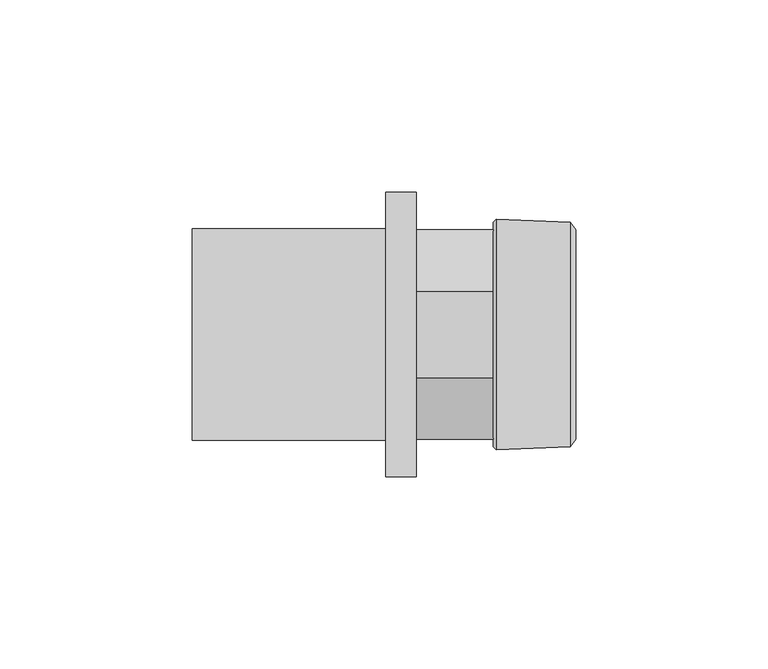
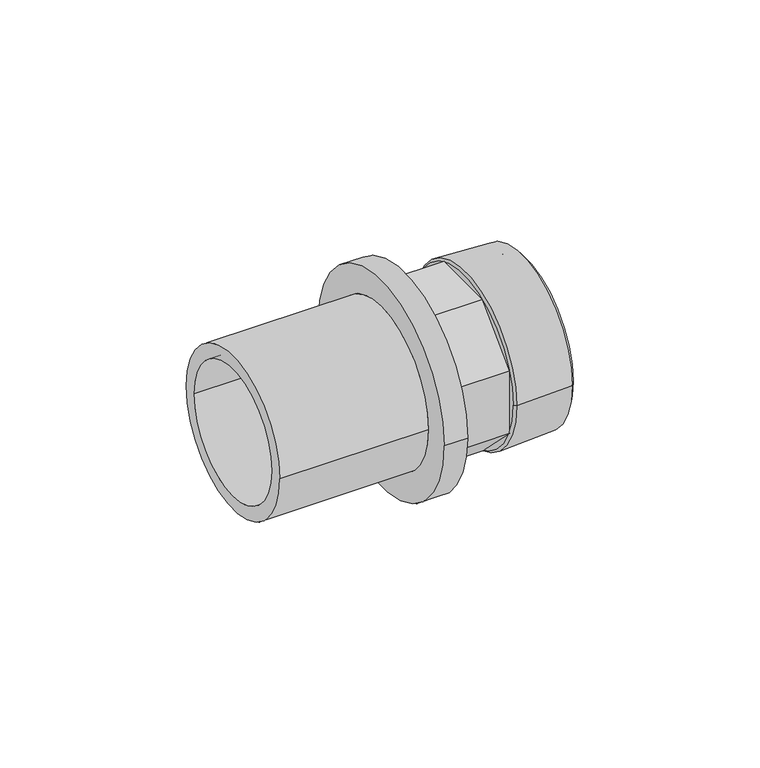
"""IFC4 building model written with IfcOpenShell, lengths in millimetres: pipe fitting geometry, REHAU_RAUTITAN_Adaptor_RX+ stabil, with external thread : REHAU_RAUTITAN_Adaptor_RX+ stabil, with external thread."""

from ifc_helpers import new_model, si_unit, point, frame, origin, origin_2d, place, context, project, spatial, polyline, circle_curve, trimmed, segment, composite_curve, outline, extrude, source, transform, mapped, element, save
from ifc_brep_helpers import plane_surface, cylinder_surface, revolved_surface, advanced_brep


def pipe_fitting_51f131a0(model_context):
    return source(origin(), model_context, "Body", "SolidModel", [
        advanced_brep(
        [(21.1032803, 24.75, 0.0), (21.1032803, -24.75, 0.0), (41.5, -24.75, 0.0), (41.5, 24.75, 0.0), (20.0, 23.6467197, 0.0), (20.0, -23.6467197, 0.0), (20.7406902, 29.95, 0.0), (20.7406902, -29.95, 0.0), (20.0, -29.2, 0.0), (20.0, 29.2, 0.0), (40.0000007, 29.2, 0.0), (40.0000007, -29.2, 0.0), (41.5, 27.25, 0.0), (41.5, -27.25, 0.0)],
        [
            (0, 1, circle_curve(frame((21.1032803, 0.0, 0.0), z_axis=(-1.0, 0.0, 0.0), x_axis=(0.0, -1.0, 0.0)), 24.75)),
            (1, 2),
            (2, 3, circle_curve(frame((41.5, 0.0, 0.0), z_axis=(1.0, 0.0, 0.0), x_axis=(0.0, -1.0, 0.0)), 24.75)),
            (3, 0),
            (4, 5, circle_curve(frame((20.0, 0.0, 0.0), z_axis=(-1.0, 0.0, 0.0), x_axis=(0.0, -1.0, 0.0)), 23.6467197)),
            (5, 1),
            (0, 4),
            (6, 7, circle_curve(frame((20.7406902, 0.0, 0.0), z_axis=(-1.0, 0.0, 0.0), x_axis=(0.0, -1.0, 0.0)), 29.95)),
            (7, 8),
            (8, 9, circle_curve(frame((20.0, 0.0, 0.0), z_axis=(1.0, 0.0, 0.0), x_axis=(0.0, -1.0, 0.0)), 29.2)),
            (9, 6),
            (10, 11, circle_curve(frame((40.0000007, 0.0, 0.0), z_axis=(-1.0, 0.0, 0.0), x_axis=(0.0, -1.0, 0.0)), 29.2)),
            (11, 7),
            (6, 10),
            (12, 13, circle_curve(frame((41.5, 0.0, 0.0), z_axis=(-1.0, 0.0, 0.0), x_axis=(0.0, -1.0, 0.0)), 27.25)),
            (13, 11),
            (10, 12),
            (1, 0, circle_curve(frame((21.1032803, 0.0, 0.0), z_axis=(-1.0, 0.0, 0.0), x_axis=(0.0, 1.0, 0.0)), 24.75)),
            (3, 2, circle_curve(frame((41.5, 0.0, 0.0), z_axis=(1.0, 0.0, 0.0), x_axis=(0.0, 1.0, 0.0)), 24.75)),
            (5, 4, circle_curve(frame((20.0, 0.0, 0.0), z_axis=(-1.0, 0.0, 0.0), x_axis=(0.0, 1.0, 0.0)), 23.6467197)),
            (8, 9, circle_curve(frame((20.0, 0.0, 0.0), z_axis=(-1.0, 0.0, 0.0), x_axis=(0.0, 1.0, 0.0)), 29.2)),
            (7, 6, circle_curve(frame((20.7406902, 0.0, 0.0), z_axis=(-1.0, 0.0, 0.0), x_axis=(0.0, 1.0, 0.0)), 29.95)),
            (11, 10, circle_curve(frame((40.0000007, 0.0, 0.0), z_axis=(-1.0, 0.0, 0.0), x_axis=(0.0, 1.0, 0.0)), 29.2)),
            (13, 12, circle_curve(frame((41.5, 0.0, 0.0), z_axis=(-1.0, 0.0, 0.0), x_axis=(0.0, 1.0, 0.0)), 27.25)),
        ],
        [
            revolved_surface(polyline([(41.5, -24.75, 0.0), (21.1032803, -24.75, 0.0)]), (0.0, 0.0, 0.0), (1.0, 0.0, 0.0)),
            revolved_surface(polyline([(21.1032803, -24.75, 0.0), (20.0, -23.6467197, 0.0)]), (0.0, 0.0, 0.0), (1.0, 0.0, 0.0)),
            revolved_surface(polyline([(20.0, -29.2, 0.0), (20.7406902, -29.95, 0.0)]), (0.0, 0.0, 0.0), (1.0, 0.0, 0.0)),
            revolved_surface(polyline([(20.7406902, -29.95, 0.0), (40.0000007, -29.2, 0.0)]), (0.0, 0.0, 0.0), (1.0, 0.0, 0.0)),
            revolved_surface(polyline([(40.0000007, -29.2, 0.0), (41.5, -27.25, 0.0)]), (0.0, 0.0, 0.0), (1.0, 0.0, 0.0)),
            revolved_surface(polyline([(41.5, 24.75, 0.0), (21.1032803, 24.75, 0.0)]), (0.0, 0.0, 0.0), (1.0, 0.0, 0.0)),
            revolved_surface(polyline([(21.1032803, 24.75, 0.0), (20.0, 23.6467197, 0.0)]), (0.0, 0.0, 0.0), (1.0, 0.0, 0.0)),
            plane_surface(frame((20.0, 0.0, 0.0), z_axis=(-1.0, 0.0, 0.0), x_axis=(0.0, 1.0, 0.0))),
            revolved_surface(polyline([(20.0, 29.2, 0.0), (20.7406902, 29.95, 0.0)]), (0.0, 0.0, 0.0), (1.0, 0.0, 0.0)),
            revolved_surface(polyline([(20.7406902, 29.95, 0.0), (40.0000007, 29.2, 0.0)]), (0.0, 0.0, 0.0), (1.0, 0.0, 0.0)),
            revolved_surface(polyline([(40.0000007, 29.2, 0.0), (41.5, 27.25, 0.0)]), (0.0, 0.0, 0.0), (1.0, 0.0, 0.0)),
            plane_surface(frame((41.5, 0.0, 0.0), z_axis=(1.0, 0.0, 0.0), x_axis=(0.0, 1.0, 0.0))),
        ],
        [
            (0, [[1, 2, 3, 4]]),
            (1, [[5, 6, -1, 7]]),
            (2, [[8, 9, 10, 11]]),
            (3, [[12, 13, -8, 14]]),
            (4, [[15, 16, -12, 17]]),
            (5, [[18, -4, 19, -2]]),
            (6, [[20, -7, -18, -6]]),
            (7, [[21, -10], [-20, -5]]),
            (8, [[22, -11, -21, -9]]),
            (9, [[23, -14, -22, -13]]),
            (10, [[24, -17, -23, -16]]),
            (11, [[-24, -15], [-19, -3]]),
        ],
    ),
        extrude(outline(polyline([(-11.2873196, -27.25), (-27.25, -11.2873196), (-27.25, 11.2873196), (-11.2873196, 27.25), (11.2873196, 27.25), (27.25, 11.2873196), (27.25, -11.2873196), (11.2873196, -27.25), (-11.2873196, -27.25)]), holes=[composite_curve([segment(trimmed(circle_curve(origin_2d(), 22.75), [point((-22.75, 0.0))], [point((22.75, 0.0))], True, "CARTESIAN"), True, "CONTINUOUS"), segment(trimmed(circle_curve(origin_2d(), 22.75), [point((22.75, 0.0))], [point((-22.75, 0.0))], True, "CARTESIAN"), True, "CONTINUOUS")], self_intersect=False)]), frame((0.0, 0.0, 0.0), z_axis=(1.0, 0.0, 0.0), x_axis=(0.0, 1.0, 0.0)), (0.0, 0.0, 1.0), 20.0),
        advanced_brep(
        [(-58.3, 22.75, 0.0), (-58.3, -22.75, 0.0), (0.0, -22.75, 0.0), (0.0, 22.75, 0.0), (-7.9, 27.55, 0.0), (-7.9, -27.55, 0.0), (-58.3, -27.55, 0.0), (-58.3, 27.55, 0.0), (0.0, 37.0, 0.0), (0.0, -37.0, 0.0), (-7.9, -37.0, 0.0), (-7.9, 37.0, 0.0)],
        [
            (0, 1, circle_curve(frame((-58.3, 0.0, 0.0), z_axis=(-1.0, 0.0, 0.0), x_axis=(0.0, -1.0, 0.0)), 22.75)),
            (1, 2),
            (2, 3, circle_curve(frame((0.0, 0.0, 0.0), z_axis=(1.0, 0.0, 0.0), x_axis=(0.0, -1.0, 0.0)), 22.75)),
            (3, 0),
            (4, 5, circle_curve(frame((-7.9, 0.0, 0.0), z_axis=(-1.0, 0.0, 0.0), x_axis=(0.0, -1.0, 0.0)), 27.55)),
            (5, 6),
            (6, 7, circle_curve(frame((-58.3, 0.0, 0.0), z_axis=(1.0, 0.0, 0.0), x_axis=(0.0, -1.0, 0.0)), 27.55)),
            (7, 4),
            (8, 9, circle_curve(frame((0.0, 0.0, 0.0), z_axis=(-1.0, 0.0, 0.0), x_axis=(0.0, -1.0, 0.0)), 37.0)),
            (9, 10),
            (10, 11, circle_curve(frame((-7.9, 0.0, 0.0), z_axis=(1.0, 0.0, 0.0), x_axis=(0.0, -1.0, 0.0)), 37.0)),
            (11, 8),
            (8, 9, circle_curve(frame((0.0, 0.0, 0.0), z_axis=(1.0, 0.0, 0.0), x_axis=(0.0, 1.0, 0.0)), 37.0)),
            (2, 3, circle_curve(frame((0.0, 0.0, 0.0), z_axis=(-1.0, 0.0, 0.0), x_axis=(0.0, 1.0, 0.0)), 22.75)),
            (1, 0, circle_curve(frame((-58.3, 0.0, 0.0), z_axis=(-1.0, 0.0, 0.0), x_axis=(0.0, 1.0, 0.0)), 22.75)),
            (6, 7, circle_curve(frame((-58.3, 0.0, 0.0), z_axis=(-1.0, 0.0, 0.0), x_axis=(0.0, 1.0, 0.0)), 27.55)),
            (5, 4, circle_curve(frame((-7.9, 0.0, 0.0), z_axis=(-1.0, 0.0, 0.0), x_axis=(0.0, 1.0, 0.0)), 27.55)),
            (10, 11, circle_curve(frame((-7.9, 0.0, 0.0), z_axis=(-1.0, 0.0, 0.0), x_axis=(0.0, 1.0, 0.0)), 37.0)),
        ],
        [
            revolved_surface(polyline([(0.0, -22.75, 0.0), (-58.3, -22.75, 0.0)]), (0.0, 0.0, 0.0), (1.0, 0.0, 0.0)),
            cylinder_surface(frame((0.0, 0.0, 0.0), z_axis=(1.0, 0.0, 0.0), x_axis=(0.0, -1.0, 0.0)), 27.55),
            cylinder_surface(frame((0.0, 0.0, 0.0), z_axis=(1.0, 0.0, 0.0), x_axis=(0.0, -1.0, 0.0)), 37.0),
            plane_surface(frame((0.0, 0.0, 0.0), z_axis=(1.0, 0.0, 0.0), x_axis=(0.0, 1.0, 0.0))),
            revolved_surface(polyline([(0.0, 22.75, 0.0), (-58.3, 22.75, 0.0)]), (0.0, 0.0, 0.0), (1.0, 0.0, 0.0)),
            plane_surface(frame((-58.3, 0.0, 0.0), z_axis=(-1.0, 0.0, 0.0), x_axis=(0.0, 1.0, 0.0))),
            cylinder_surface(frame((0.0, 0.0, 0.0), z_axis=(1.0, 0.0, 0.0), x_axis=(0.0, 1.0, 0.0)), 27.55),
            plane_surface(frame((-7.9, 0.0, 0.0), z_axis=(-1.0, 0.0, 0.0), x_axis=(0.0, 1.0, 0.0))),
            cylinder_surface(frame((0.0, 0.0, 0.0), z_axis=(1.0, 0.0, 0.0), x_axis=(0.0, 1.0, 0.0)), 37.0),
        ],
        [
            (0, [[1, 2, 3, 4]]),
            (1, [[5, 6, 7, 8]]),
            (2, [[9, 10, 11, 12]]),
            (3, [[13, -9], [14, -3]]),
            (4, [[15, -4, -14, -2]]),
            (5, [[16, -7], [-15, -1]]),
            (6, [[17, -8, -16, -6]]),
            (7, [[18, -11], [-17, -5]]),
            (8, [[-13, -12, -18, -10]]),
        ],
    ),
    ])


if __name__ == "__main__":
    model = new_model("IFC4")
    model_context = context("Model", 3, world=origin())
    ifc_project = project(units=[si_unit("LENGTHUNIT", "METRE", prefix="MILLI")], contexts=[model_context])
    site = spatial("IfcSite", under=ifc_project)
    building = spatial("IfcBuilding", under=site)
    placement = place(None, origin())
    pipe_fitting_shape = pipe_fitting_51f131a0(model_context)
    element("IfcPipeFitting", 1, ObjectType="REHAU_RAUTITAN_Adaptor_RX+ stabil, with external thread : REHAU_RAUTITAN_Adaptor_RX+ stabil, with external thread", at=placement, inside=building, context=model_context, shape_type="MappedRepresentation", body=[
        mapped(pipe_fitting_shape, transform((0.0, 0.0, 0.0), x_axis=(1.0, 0.0, 0.0), y_axis=(0.0, 1.0, 0.0), z_axis=(0.0, 0.0, 1.0))),
    ])
    save(model, "model.ifc")
